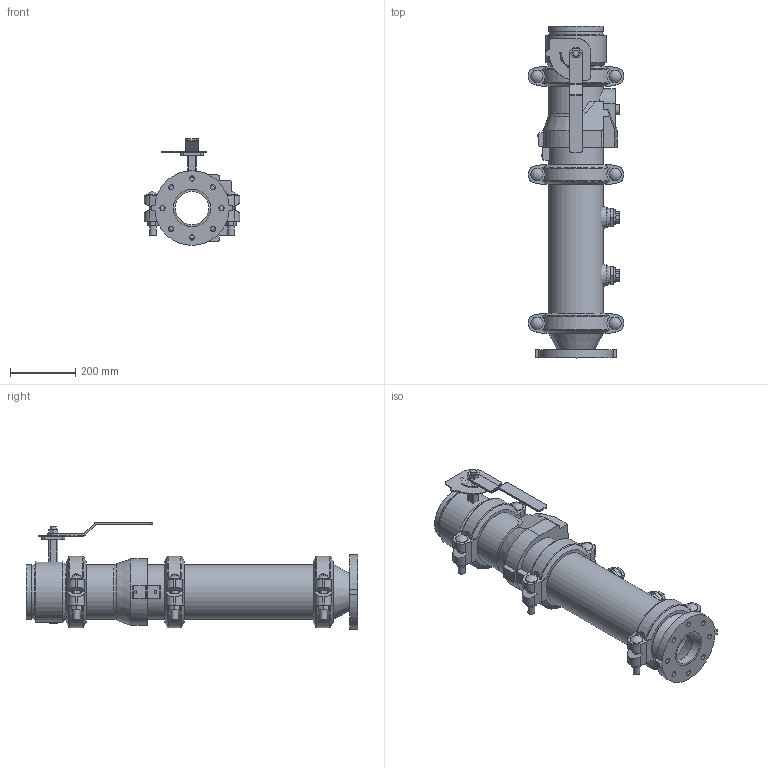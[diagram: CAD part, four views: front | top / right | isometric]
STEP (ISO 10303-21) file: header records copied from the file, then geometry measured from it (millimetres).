
FILE_DESCRIPTION(/* description */ ('VIC DVI PUMP DROP VERT S/390 (OGSxFLG)','CAx-IF Rec.Pracs.---Representation and Presentation of Product Manufacturing Information (PMI)---4.0---2014-10-13'),/* implementation_level */ '2;1');
FILE_NAME(/* name */ 'C:\Users\Vjadhav\AppData\Roaming\Autodesk\ApplicationPlugins\Back Up\Victaulic_IPS_Vertical DVI_PN10_Series 390 (OGSxFLG)\Victaulic_IPS_Vertical DVI_PN10_Series 390 (OGSxFLG)_06.0x04.0 (150x100).stp',/* time_stamp */ '2020-11-09T17:51:15+05:00',/* author */ ('Vjadhav'),/* organization */ ('Victaulic'),/* preprocessor_version */ 'ST-DEVELOPER v17.2',/* originating_system */ 'Autodesk Inventor 2019',/* authorisation */ '');
FILE_SCHEMA (('AP242_MANAGED_MODEL_BASED_3D_ENGINEERING_MIM_LF { 1 0 10303 442 1 1 4 }'));
Length unit declared in the file: inch
Products named in the file (8): 390-06.0x04.0; 741-04.0; 050-06.0x04.0; Pipe-06.0; 177N-06.0; 761-06.0; 716-06.0; 923-04.0x0.75
Assembly tree (10 placements, depth 2):
  390-06.0x04.0
    741-04.0
    050-06.0x04.0
    177N-06.0  x3
    Pipe-06.0
    761-06.0
    716-06.0
    923-04.0x0.75  x2
Bounding box: 292.61 x 1019.05 x 327.15 mm (x, y, z)
Volume: 10380045.8 mm3; surface area: 1797622.2 mm2
Topology: 10 solids, 11 shells, 611 faces, 1611 edges, 1076 vertices
Faces by surface type: plane 358, cylinder 208, cone 20, torus 17, sphere 6, bspline 2
Full cylindrical faces by diameter (mm): 4.826 x10, 7.62 x2, 8.636 x4, 16.002 x8, 19.05 x2, 21.209 x6, 22.86 x1, 26.67 x2, 30.48 x1, 37.694 x6, 45.974 x4, 55.118 x1, 55.626 x2, 102.26 x1, 110.084 x1, 114.3 x3, 154.051 x3, 155.575 x3, 157.15 x1, 163.957 x7, 168.275 x19, 185.42 x1
Entity records: 12549 total; most frequent: CARTESIAN_POINT 2398, DIRECTION 2085, ORIENTED_EDGE 1910, EDGE_CURVE 955, AXIS2_PLACEMENT_3D 785, VERTEX_POINT 644, LINE 515, VECTOR 515
